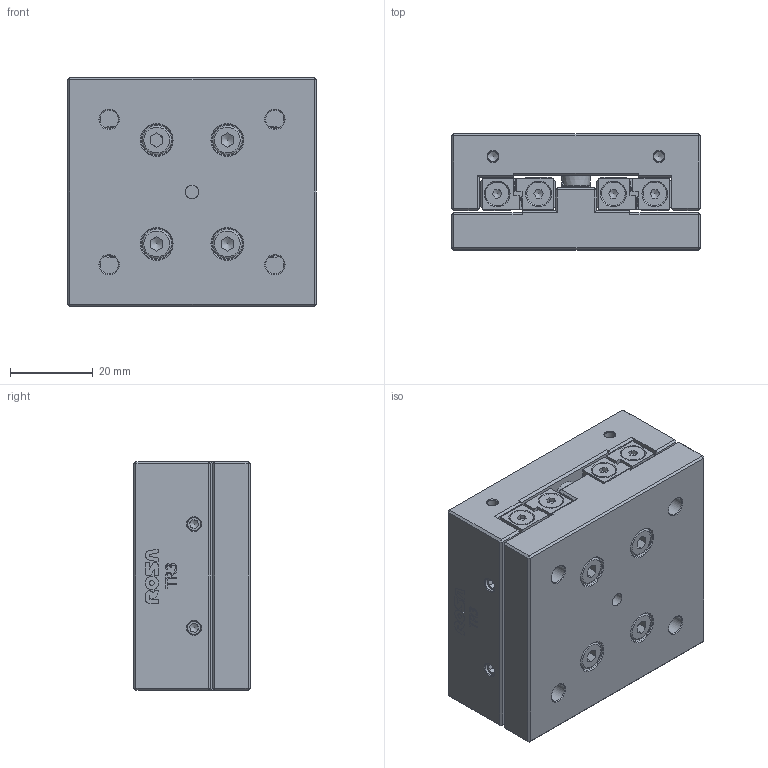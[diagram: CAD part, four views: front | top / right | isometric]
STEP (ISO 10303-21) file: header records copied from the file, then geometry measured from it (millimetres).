
FILE_DESCRIPTION(/* description */ ('Tavola TR3 L= 55 mm'),/* implementation_level */ '2;1');
FILE_NAME(/* name */ 'TR030055-00.stp',/* time_stamp */ '2024-02-07T10:23:29+01:00',/* author */ ('Rosa sistemi'),/* organization */ (''),/* preprocessor_version */ 'ST-DEVELOPER v20',/* originating_system */ 'Autodesk Inventor 2024',/* authorisation */ '');
FILE_SCHEMA (('AUTOMOTIVE_DESIGN { 1 0 10303 214 3 1 1 }'));
Length unit declared in the file: millimetre
Products named in the file (2): TR030055-00; TR030055-00_1
Assembly tree (1 placements, depth 2):
  TR030055-00
    TR030055-00_1
Bounding box: 60 x 28 x 55 mm (x, y, z)
Volume: 83786.6 mm3; surface area: 29713.8 mm2
Topology: 12 solids, 12 shells, 1275 faces, 3321 edges, 2168 vertices
Faces by surface type: plane 814, bspline 196, cylinder 145, cone 98, torus 22
Full cylindrical faces by diameter (mm): 0.929 x4, 1.161 x1, 2.459 x4, 2.554 x4, 3 x6, 3.1 x4, 3.192 x1, 3.242 x16, 4 x8, 4.5 x12, 5.7 x8, 6 x8, 7 x8, 7.5 x12
Entity records: 41039 total; most frequent: CARTESIAN_POINT 9672, ORIENTED_EDGE 6598, DIRECTION 5484, EDGE_CURVE 3299, LINE 2202, VECTOR 2202, VERTEX_POINT 2168, AXIS2_PLACEMENT_3D 1641
